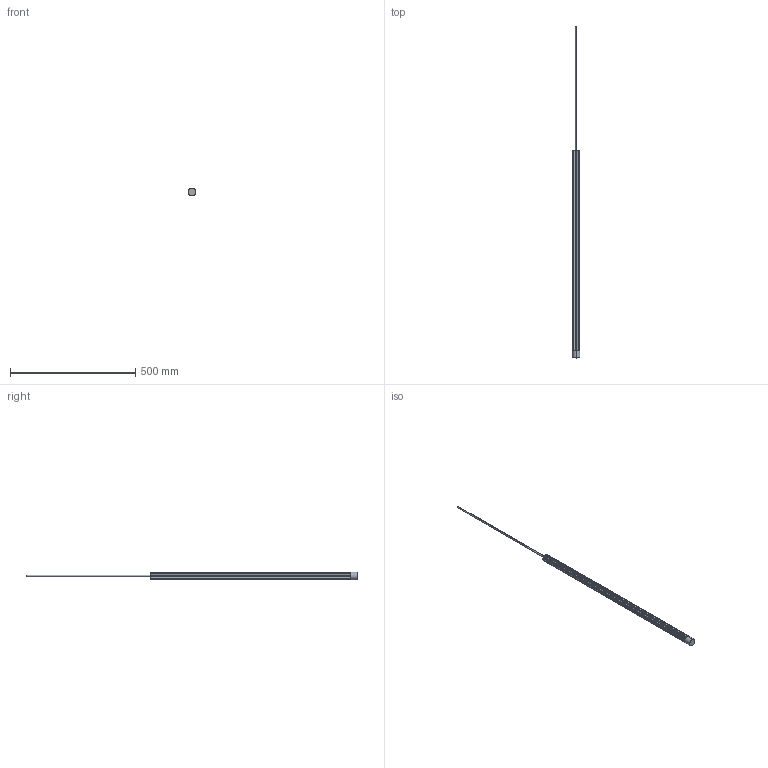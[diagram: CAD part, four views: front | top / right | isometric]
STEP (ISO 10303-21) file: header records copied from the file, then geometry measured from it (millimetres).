
FILE_DESCRIPTION (( 'STEP AP203' ), '1' );
FILE_NAME ('tob stripes 80.STEP', '2022-11-21T00:10:49', ( '' ), ( '' ), 'SwSTEP 2.0', 'SolidWorks 2014', '' );
FILE_SCHEMA (( 'CONFIG_CONTROL_DESIGN' ));
Length unit declared in the file: millimetre
Products named in the file (1): tob stripes 80
Bounding box: 30 x 1326 x 30 mm (x, y, z)
Volume: 485165.4 mm3; surface area: 119591.7 mm2
Topology: 3 solids, 3 shells, 302 faces, 737 edges, 442 vertices
Faces by surface type: cylinder 144, torus 103, plane 55
Entity records: 9003 total; most frequent: DIRECTION 1792, CARTESIAN_POINT 1482, ORIENTED_EDGE 1474, AXIS2_PLACEMENT_3D 752, EDGE_CURVE 737, CIRCLE 449, VERTEX_POINT 442, EDGE_LOOP 305
